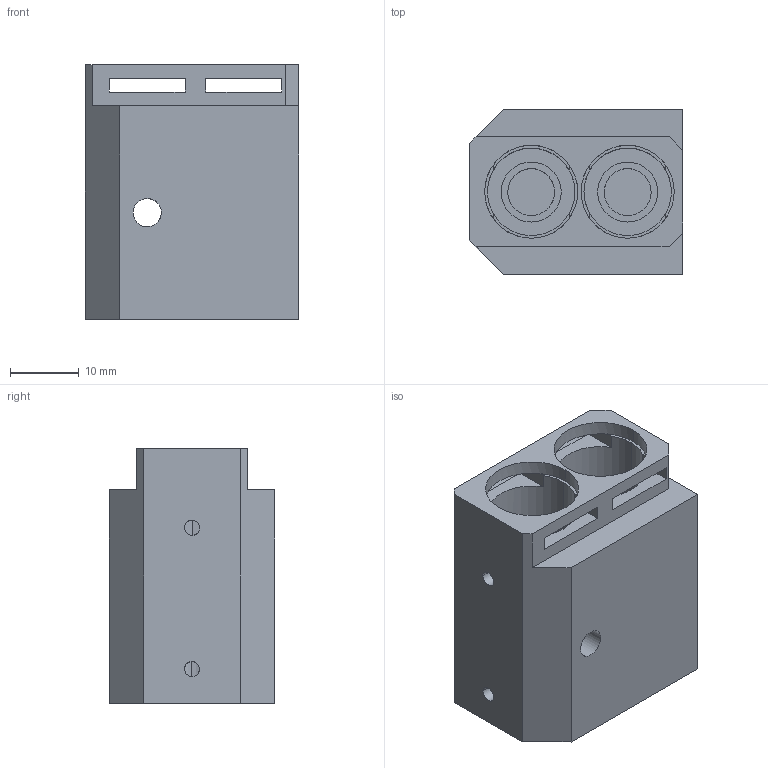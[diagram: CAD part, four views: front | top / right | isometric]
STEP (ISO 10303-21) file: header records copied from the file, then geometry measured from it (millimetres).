
FILE_DESCRIPTION(('CATIA V5 STEP Exchange'),'2;1');
FILE_NAME('C:\Users\Administrator\Desktop\LS42.16_V1 阀体（安装O型圈）.stp','2020-04-02T01:50:11+00:00',('none'),('none'),'CATIA Version 5 Release 21 GA (IN-10)','CATIA V5 STEP AP214','none');
FILE_SCHEMA(('AUTOMOTIVE_DESIGN { 1 0 10303 214 1 1 1 1 }'));
Length unit declared in the file: millimetre
Products named in the file (1): Copy (1) of 壳体
Bounding box: 31 x 24 x 37 mm (x, y, z)
Volume: 17262.2 mm3; surface area: 8247.6 mm2
Topology: 1 solids, 1 shells, 96 faces, 269 edges, 169 vertices
Faces by surface type: cylinder 48, plane 40, cone 8
Entity records: 3044 total; most frequent: CARTESIAN_POINT 790, ORIENTED_EDGE 530, DIRECTION 329, EDGE_CURVE 265, VERTEX_POINT 169, VECTOR 147, LINE 147, AXIS2_PLACEMENT_3D 132
